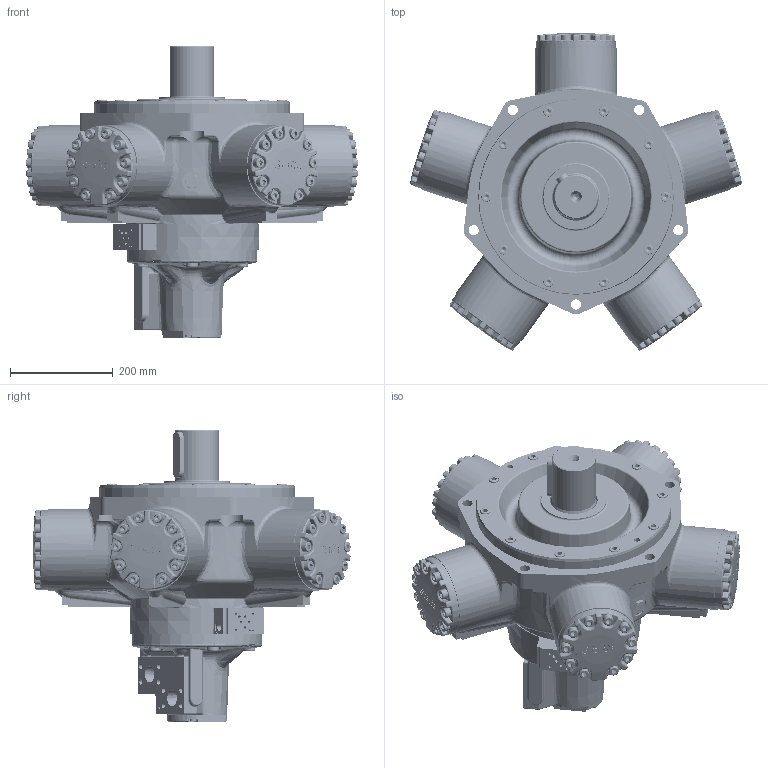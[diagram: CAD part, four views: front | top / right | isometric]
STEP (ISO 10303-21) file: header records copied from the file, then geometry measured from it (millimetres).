
FILE_DESCRIPTION((''),'2;1');
FILE_NAME('I:\3D Step files\Approved for WEB\Staffa\HMC200 P FM3 C 70.stp','2013-04-25T16:12:20',('mnorman'),(''),'Autodesk Inventor 2013','Autodesk Inventor 2013','');
FILE_SCHEMA(('AUTOMOTIVE_DESIGN { 1 0 10303 214 1 1 1 1 }'));
Length unit declared in the file: millimetre
Products named in the file (1): Part2
Bounding box: 646.62 x 617.6 x 569.42 mm (x, y, z)
Volume: 29152506.5 mm3; surface area: 2420383.8 mm2
Topology: 2 solids, 85 shells, 3992 faces, 9549 edges, 5938 vertices
Faces by surface type: plane 1522, cylinder 836, bspline 815, cone 381, torus 289, sphere 144, revolution 5
Full cylindrical faces by diameter (mm): 3 x2, 4 x2, 4.134 x4, 5.5 x6, 6 x1, 6.2 x2, 7.938 x5, 8.731 x4, 9.945 x1, 10 x1, 10.109 x8, 11.328 x63, 11.5 x1, 11.913 x4, 12.7 x60, 13.15 x1, 13.494 x10, 13.5 x50, 14.351 x5, 15.875 x5, 16.272 x5, 16.7 x5, 19.05 x73, 20 x5, 20.6 x50, 20.638 x10, 22.2 x5, 23.825 x5, 25 x1, 25.4 x5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
Entity records: 139611 total; most frequent: CARTESIAN_POINT 55551, ORIENTED_EDGE 16436, DIRECTION 14711, EDGE_CURVE 8218, AXIS2_PLACEMENT_3D 5933, VERTEX_POINT 5628, EDGE_LOOP 5292, FACE_OUTER_BOUND 3992
